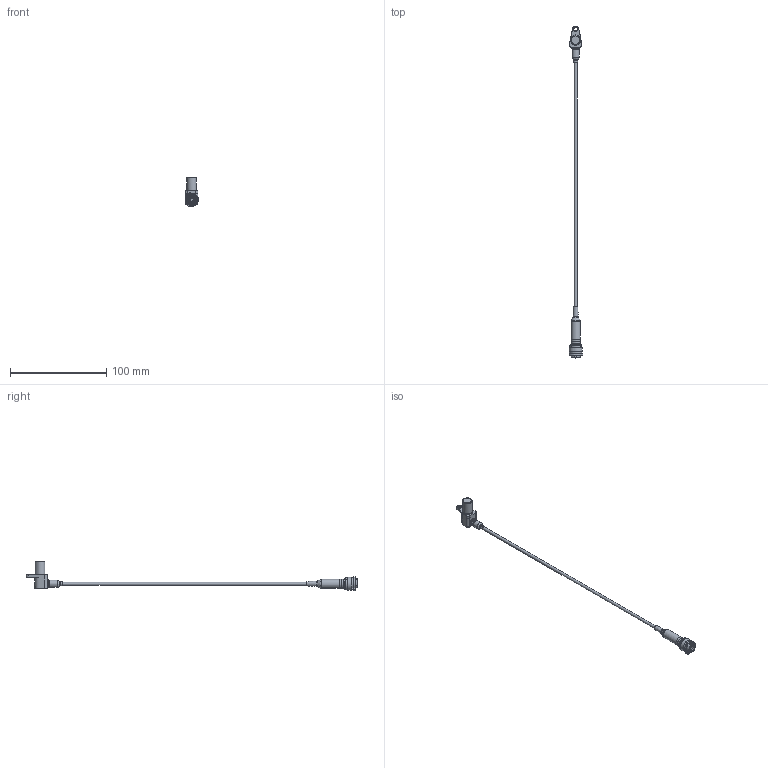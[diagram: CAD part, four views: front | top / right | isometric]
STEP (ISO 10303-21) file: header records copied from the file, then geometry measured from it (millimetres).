
FILE_DESCRIPTION(/* description */ (''),/* implementation_level */ '2;1');
FILE_NAME(/* name */ 'HA-N_F02UV0U714-01.stp',/* time_stamp */ '2018-02-22T15:31:03+01:00',/* author */ (''),/* organization */ (''),/* preprocessor_version */ 'ST-DEVELOPER v16',/* originating_system */ 'SIEMENS PLM Software NX 11.0',/* authorisation */ '');
FILE_SCHEMA (('AUTOMOTIVE_DESIGN { 1 0 10303 214 3 1 1 1 }'));
Length unit declared in the file: millimetre
Products named in the file (1): HA-N
Bounding box: 14.28 x 345.75 x 30.79 mm (x, y, z)
Volume: 5370.9 mm3; surface area: 9845.1 mm2
Topology: 8 solids, 8 shells, 256 faces, 648 edges, 426 vertices
Faces by surface type: plane 95, cylinder 93, cone 36, revolution 26, bspline 6
Full cylindrical faces by diameter (mm): 0.2 x5, 0.5 x5, 1 x5, 3 x1, 3.048 x1, 3.057 x1, 3.912 x2, 4.057 x1, 5.461 x1, 5.588 x2, 5.8 x1, 6.223 x2, 6.299 x1, 6.35 x1, 6.4 x1, 6.8 x1, 6.858 x1, 7.4 x1, 7.5 x1, 7.6 x1, 7.938 x1, 8.4 x1, 8.601 x1, 8.7 x1, 9.389 x1, 9.398 x1, 9.5 x1, 10 x1, 11.479 x1, 11.5 x1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
Entity records: 9552 total; most frequent: CARTESIAN_POINT 2019, DIRECTION 1161, ORIENTED_EDGE 1052, EDGE_CURVE 526, AXIS2_PLACEMENT_3D 483, VERTEX_POINT 401, EDGE_LOOP 387, PRESENTATION_STYLE_ASSIGNMENT 264
